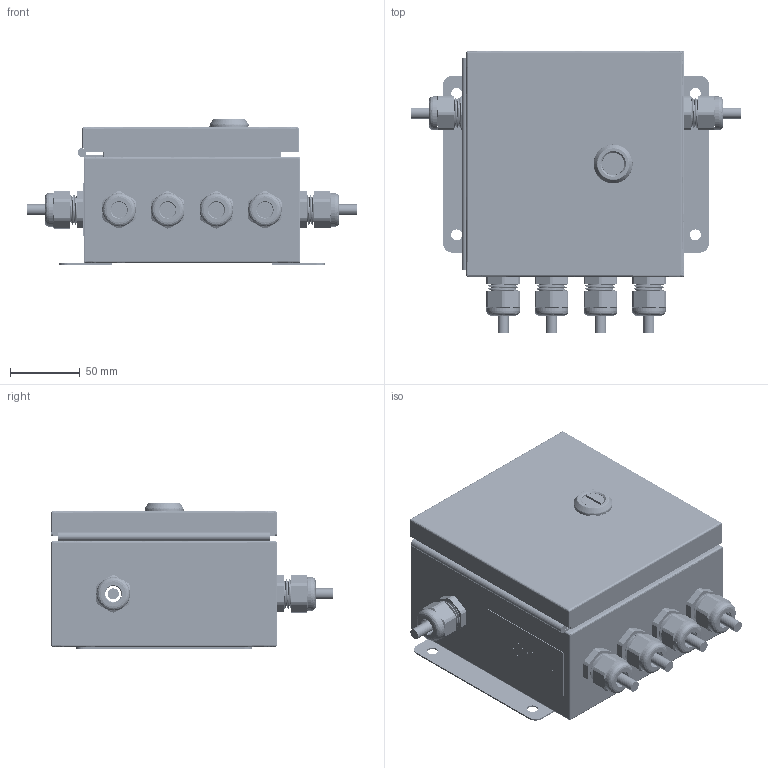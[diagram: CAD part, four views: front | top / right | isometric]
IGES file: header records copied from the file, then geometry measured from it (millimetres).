
Start section: SolidWorks IGES file using analytic representation for surfaces
Global section: file name: C:\0_Work\SolidWorks\HI 6020 Series\HI6020IT-SS2-6.IGS; native system: SolidWorks 2020; preprocessor: SolidWorks 2020; author: vach01; date: 230928.135452; units: inch
Bounding box: 236.85 x 203.09 x 104.41 mm (x, y, z)
Surface area: 476333.5 mm2 (no closed solid volume)
Topology: 0 solids, 0 shells, 18160 faces, 160383 edges, 160265 vertices
Faces by surface type: bspline 14785, revolution 3375
